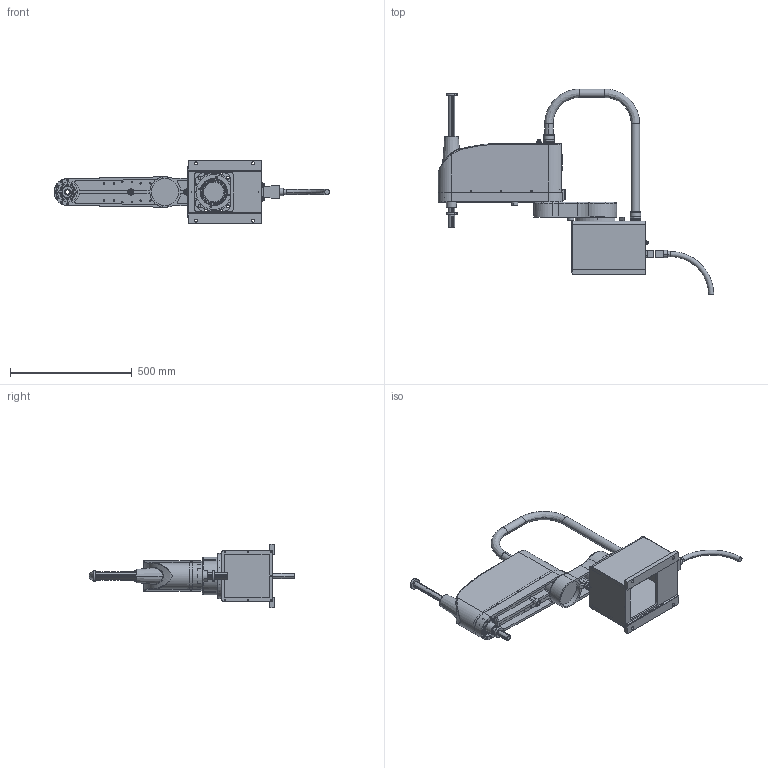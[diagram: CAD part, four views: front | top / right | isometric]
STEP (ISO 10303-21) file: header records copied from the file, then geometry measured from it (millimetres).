
FILE_DESCRIPTION (( 'STEP AP214' ), '1' );
FILE_NAME ('AR61030-E-00.STEP', '2019-12-14T06:58:23', ( '微软用户' ), ( '微软中国' ), 'SwSTEP 2.0', 'SolidWorks 2018', '' );
FILE_SCHEMA (( 'AUTOMOTIVE_DESIGN' ));
Length unit declared in the file: millimetre
Products named in the file (8): Y旋郪璃; X旋郪璃-200旋酗; AR61030-E-00; 菁釱-600軞旋酗; 佪裝郪璃; hexagon socket head cap screws gb_GB_FASTENER_SCREWS_HSHCS M4X16-N; Z粣癹弇輸; 25N_450
Assembly tree (9 placements, depth 3):
  AR61030-E-00
    X旋郪璃-200旋酗
    Y旋郪璃
    佪裝郪璃
      25N_450
      Z粣癹弇輸  x2
      hexagon socket head cap screws gb_GB_FASTENER_SCREWS_HSHCS M4X16-N  x2
    菁釱-600軞旋酗
Bounding box: 1131.5 x 845.13 x 260 mm (x, y, z)
Volume: 144757.3 mm3; surface area: 1798026.7 mm2
Topology: 5 solids, 66 shells, 1285 faces, 3794 edges, 2582 vertices
Faces by surface type: cylinder 730, plane 422, cone 78, bspline 33, torus 22
Entity records: 59608 total; most frequent: CARTESIAN_POINT 11679, DIRECTION 7928, ORIENTED_EDGE 6266, EDGE_CURVE 3683, AXIS2_PLACEMENT_3D 3080, VERTEX_POINT 2515, CIRCLE 1857, LINE 1768
